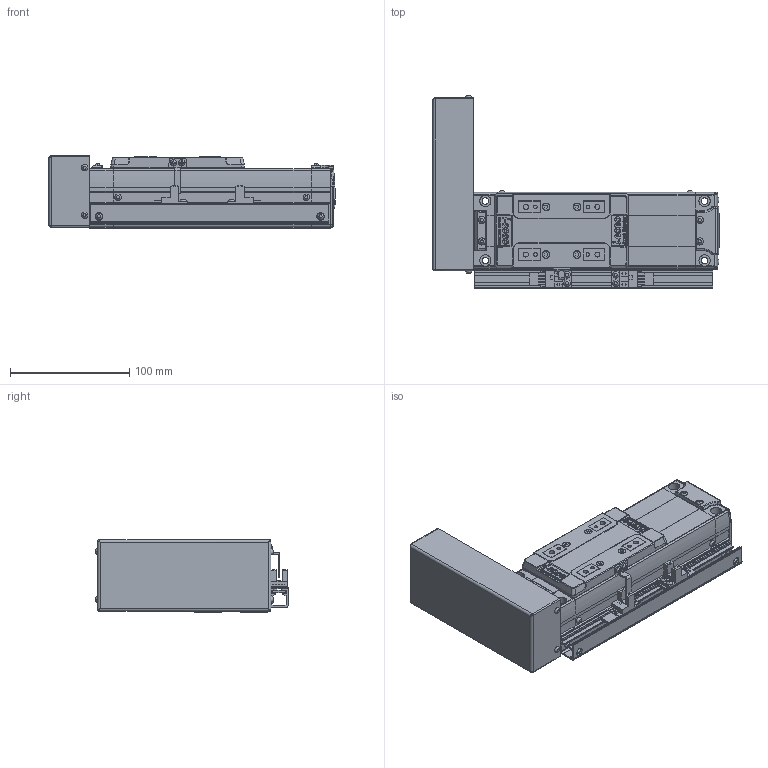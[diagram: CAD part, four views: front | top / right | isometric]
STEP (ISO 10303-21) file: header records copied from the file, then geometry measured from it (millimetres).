
FILE_DESCRIPTION(('STEP AP214'),'1');
FILE_NAME('Z:/Web/3D/SAN65/STP/SAN65ㅁㅁ-050PL+2SR.stp','2012-06-14T00:16:06',(' '),(' '),'Spatial InterOp 3D',' ',' ');
FILE_SCHEMA(('automotive_design'));
Length unit declared in the file: metre
Products named in the file (52): SAN65__-050; BODY-SAN65; REAR-SAN65; RRCV-SAN65; 스크루 : Round - M3.0 x 6.0; FRONT-SAN65; SHAFT-SAN65; RN8 x 0.75; SSFX-SAN65; SLIDE-SAN65; SLCV-SAN65; 스크루 : Countersunk - M3.0 x 6.0; ____203; PL; BTCV-SAN65; BHCS M3 X 6L; 2SR; SRL-16x17-450L; - OT; EE-SX674; SBK-SX674-352; + OT; DOG; SDG-SAN65; 스크루 : Round - M3.0 x 5.0
Assembly tree (51 placements, depth 4):
  ____203
    SAN65__-050
      BODY-SAN65
      REAR-SAN65
        REAR-SAN65
        RRCV-SAN65
        스크루 : Round - M3.0 x 6.0
        스크루 : Round - M3.0 x 6.0
        스크루 : Round - M3.0 x 6.0
        스크루 : Round - M3.0 x 6.0
        스크루 : Round - M3.0 x 6.0
        스크루 : Round - M3.0 x 6.0
      FRONT-SAN65
        FRONT-SAN65
        SHAFT-SAN65
        RN8 x 0.75
        SSFX-SAN65
        스크루 : Round - M3.0 x 6.0
        스크루 : Round - M3.0 x 6.0
        스크루 : Round - M3.0 x 6.0
        스크루 : Round - M3.0 x 6.0
      SLIDE-SAN65
        SLIDE-SAN65
        SLCV-SAN65
        스크루 : Countersunk - M3.0 x 6.0
        스크루 : Countersunk - M3.0 x 6.0
        스크루 : Countersunk - M3.0 x 6.0
        스크루 : Countersunk - M3.0 x 6.0
    PL
      BTCV-SAN65
      BHCS M3 X 6L
      BHCS M3 X 6L
      BHCS M3 X 6L
      BHCS M3 X 6L
    2SR
      SRL-16x17-450L
      스크루 : Round - M3.0 x 6.0
      스크루 : Round - M3.0 x 6.0
      - OT
        EE-SX674
        SBK-SX674-352
        스크루 : Round - M3.0 x 6.0
        스크루 : Round - M3.0 x 6.0
      + OT
        EE-SX674
        SBK-SX674-352
        스크루 : Round - M3.0 x 6.0
        스크루 : Round - M3.0 x 6.0
      DOG
        SDG-SAN65
        스크루 : Round - M3.0 x 5.0
        스크루 : Round - M3.0 x 5.0
Bounding box: 240.15 x 162.06 x 61 mm (x, y, z)
Volume: 985974 mm3; surface area: 183397.4 mm2
Topology: 42 solids, 42 shells, 1822 faces, 4654 edges, 3034 vertices
Faces by surface type: plane 1203, cylinder 460, cone 77, sphere 34, bspline 30, torus 15, extrusion 3
Full cylindrical faces by diameter (mm): 0.571 x2, 0.706 x1, 1.727 x2, 2.132 x1, 2.2 x4, 2.5 x13, 2.528 x4, 3 x6, 3.121 x2, 3.3 x4, 3.4 x8, 3.5 x12, 4.2 x14, 4.849 x4, 5 x3, 5.5 x4, 5.987 x2, 6 x6, 6.35 x1, 6.5 x2, 7 x1, 8 x4, 9.5 x4, 13 x1, 15 x1, 19 x1, 26 x1, 38.1 x1
Entity records: 73986 total; most frequent: CARTESIAN_POINT 14388, DIRECTION 9171, ORIENTED_EDGE 8744, EDGE_CURVE 4372, VECTOR 3069, LINE 3066, AXIS2_PLACEMENT_3D 3051, VERTEX_POINT 2976
